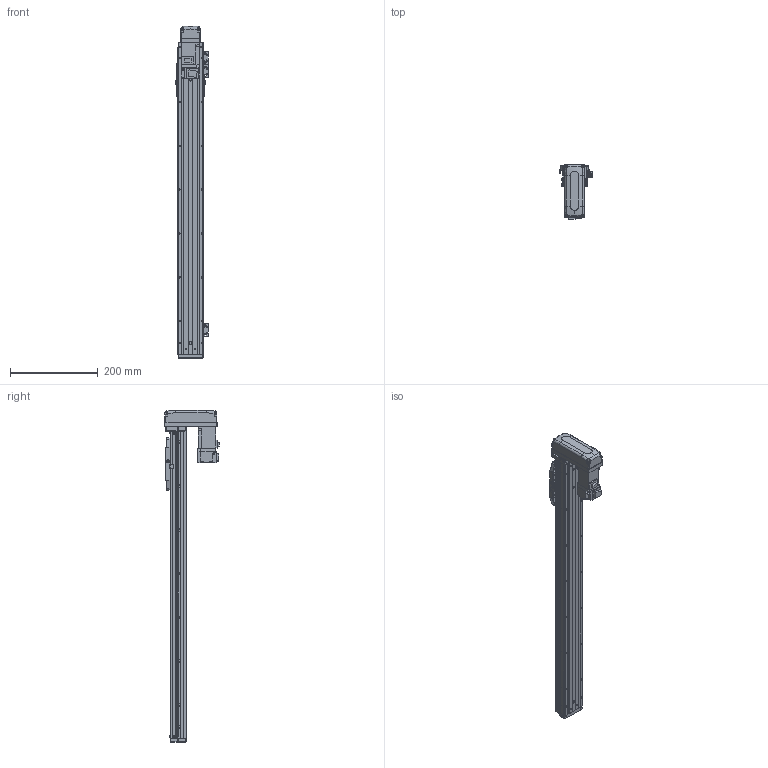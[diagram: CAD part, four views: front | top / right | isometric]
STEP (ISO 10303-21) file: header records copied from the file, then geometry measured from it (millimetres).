
FILE_DESCRIPTION (( 'STEP AP203' ), '1' );
FILE_NAME ('CTHA50-550-BM-M10-C4L.step', '2022-03-19T06:04:07', ( '微软用户' ), ( '微软中国' ), 'SwSTEP 2.0', 'SolidWorks 2020', '' );
FILE_SCHEMA (( 'CONFIG_CONTROL_DESIGN' ));
Length unit declared in the file: millimetre
Products named in the file (20): CTHA60-016; CTHA50-015-2_CTHA60-015-2; GB¨uT 70.2-M3¡Á6_M3¡Á6; CTHA60-021; CTHA60-033; EE_SX911P_R; HG-KR13（三菱）; GBT 70.1-M3×15; GBT77-2000 M3×3; CTHA50-002; CTHA50-550-BM-M10-C4L; GBT 70.1-M3℅6; CTHA50-030; KTHA50-001_700; CTHA60-017; CTHA50-031; KTHA50-004; GBT 70.1-M4×12; GBT 70.3-M3℅6; KTHA50-005
Assembly tree (60 placements, depth 2):
  CTHA50-550-BM-M10-C4L
    KTHA50-001_700
    KTHA50-004
    KTHA50-005
    GB¨uT 70.2-M3¡Á6_M3¡Á6  x10
    EE_SX911P_R  x3
    GBT77-2000 M3×3  x6
    GBT 70.1-M3℅6  x6
    CTHA60-017  x3
    GBT 70.1-M4×12  x10
    CTHA60-016  x2
    CTHA60-021  x2
    HG-KR13（三菱）
    CTHA50-002
    CTHA50-030  x2
    CTHA50-031
    GBT 70.3-M3℅6  x4
    CTHA50-015-2_CTHA60-015-2
    CTHA60-033
    GBT 70.1-M3×15  x4
Bounding box: 74.12 x 125.3 x 757 mm (x, y, z)
Volume: 1455529.6 mm3; surface area: 372195.2 mm2
Topology: 62 solids, 62 shells, 2553 faces, 6079 edges, 3726 vertices
Faces by surface type: plane 1446, cylinder 594, cone 355, torus 108, bspline 26, sphere 24
Entity records: 43977 total; most frequent: CARTESIAN_POINT 8107, DIRECTION 6865, ORIENTED_EDGE 6666, EDGE_CURVE 3333, LINE 2337, VECTOR 2337, AXIS2_PLACEMENT_3D 2264, VERTEX_POINT 2100
